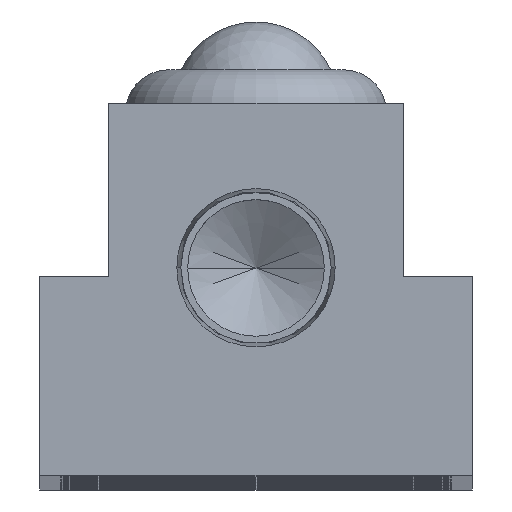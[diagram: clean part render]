
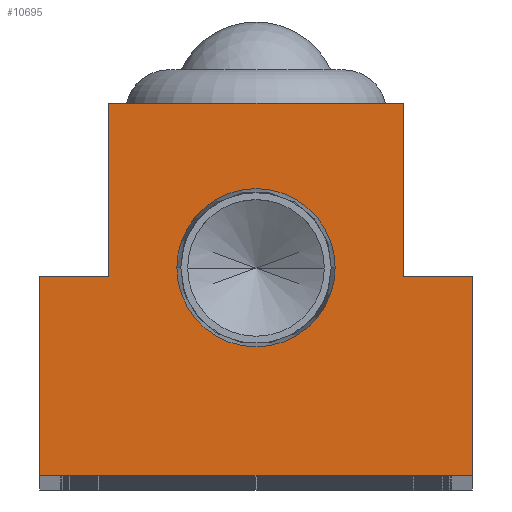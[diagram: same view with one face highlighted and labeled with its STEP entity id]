
A CAD part, top view. The second image highlights one B-rep face of the part: STEP entity #10695.
In plain terms, the highlighted planar face has unit normal (0, 0, 1).
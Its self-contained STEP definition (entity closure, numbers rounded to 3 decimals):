
#187 = CIRCLE ( 'NONE', #5587, 4.574 ) ;
#263 = VERTEX_POINT ( 'NONE', #8770 ) ;
#372 = ORIENTED_EDGE ( 'NONE', *, *, #374, .T. ) ;
#374 = EDGE_CURVE ( 'NONE', #7357, #5736, #13766, .T. ) ;
#389 = VECTOR ( 'NONE', #10794, 1000. ) ;
#401 = VERTEX_POINT ( 'NONE', #8346 ) ;
#406 = DIRECTION ( 'NONE',  ( 0., 0., 1. ) ) ;
#428 = ORIENTED_EDGE ( 'NONE', *, *, #9453, .T. ) ;
#974 = CARTESIAN_POINT ( 'NONE',  ( -8.5, 21.5, 0. ) ) ;
#985 = VERTEX_POINT ( 'NONE', #16141 ) ;
#997 = PLANE ( 'NONE',  #6294 ) ;
#1120 = LINE ( 'NONE', #1768, #13688 ) ;
#1618 = VECTOR ( 'NONE', #10406, 1000. ) ;
#1760 = EDGE_CURVE ( 'NONE', #3448, #15977, #2004, .T. ) ;
#1768 = CARTESIAN_POINT ( 'NONE',  ( -8.5, 21.5, 0. ) ) ;
#2004 = LINE ( 'NONE', #9155, #1618 ) ;
#2152 = LINE ( 'NONE', #14390, #8477 ) ;
#3025 = EDGE_CURVE ( 'NONE', #985, #7357, #3537, .T. ) ;
#3071 = VECTOR ( 'NONE', #10485, 1000. ) ;
#3136 = VECTOR ( 'NONE', #5357, 1000. ) ;
#3230 = VERTEX_POINT ( 'NONE', #8288 ) ;
#3448 = VERTEX_POINT ( 'NONE', #12734 ) ;
#3507 = EDGE_CURVE ( 'NONE', #3230, #401, #187, .T. ) ;
#3537 = LINE ( 'NONE', #12849, #3136 ) ;
#3596 = VERTEX_POINT ( 'NONE', #9353 ) ;
#3607 = CARTESIAN_POINT ( 'NONE',  ( 0., 12., 0. ) ) ;
#4026 = EDGE_CURVE ( 'NONE', #15977, #985, #9806, .T. ) ;
#4728 = CARTESIAN_POINT ( 'NONE',  ( 12.5, 11.5, 0. ) ) ;
#4783 = ORIENTED_EDGE ( 'NONE', *, *, #3507, .F. ) ;
#4884 = DIRECTION ( 'NONE',  ( 1., 0., 0. ) ) ;
#5341 = VERTEX_POINT ( 'NONE', #6767 ) ;
#5357 = DIRECTION ( 'NONE',  ( 0., 1., 0. ) ) ;
#5587 = AXIS2_PLACEMENT_3D ( 'NONE', #7940, #406, #9190 ) ;
#5716 = CARTESIAN_POINT ( 'NONE',  ( -8.5, 11.5, 0. ) ) ;
#5736 = VERTEX_POINT ( 'NONE', #974 ) ;
#6034 = LINE ( 'NONE', #12932, #3071 ) ;
#6129 = EDGE_CURVE ( 'NONE', #5736, #3596, #1120, .T. ) ;
#6294 = AXIS2_PLACEMENT_3D ( 'NONE', #9719, #13920, #6382 ) ;
#6382 = DIRECTION ( 'NONE',  ( 1., 0., 0. ) ) ;
#6767 = CARTESIAN_POINT ( 'NONE',  ( -12.5, 0., 0. ) ) ;
#6895 = CARTESIAN_POINT ( 'NONE',  ( 12.5, 11.5, 0. ) ) ;
#6990 = DIRECTION ( 'NONE',  ( -1., 0., 0. ) ) ;
#7252 = DIRECTION ( 'NONE',  ( -1., 0., 0. ) ) ;
#7357 = VERTEX_POINT ( 'NONE', #7467 ) ;
#7467 = CARTESIAN_POINT ( 'NONE',  ( 8.5, 21.5, 0. ) ) ;
#7940 = CARTESIAN_POINT ( 'NONE',  ( 0., 12., 0. ) ) ;
#8288 = CARTESIAN_POINT ( 'NONE',  ( 4.574, 12., 0. ) ) ;
#8346 = CARTESIAN_POINT ( 'NONE',  ( -4.574, 12., 0. ) ) ;
#8352 = EDGE_LOOP ( 'NONE', ( #4783, #16162 ) ) ;
#8443 = AXIS2_PLACEMENT_3D ( 'NONE', #3607, #12393, #4884 ) ;
#8477 = VECTOR ( 'NONE', #10601, 1000. ) ;
#8622 = LINE ( 'NONE', #5716, #14891 ) ;
#8770 = CARTESIAN_POINT ( 'NONE',  ( -12.5, 11.5, 0. ) ) ;
#8859 = ORIENTED_EDGE ( 'NONE', *, *, #4026, .T. ) ;
#9155 = CARTESIAN_POINT ( 'NONE',  ( 12.5, 0., 0. ) ) ;
#9190 = DIRECTION ( 'NONE',  ( 1., 0., 0. ) ) ;
#9353 = CARTESIAN_POINT ( 'NONE',  ( -8.5, 11.5, 0. ) ) ;
#9453 = EDGE_CURVE ( 'NONE', #263, #5341, #2152, .T. ) ;
#9538 = CARTESIAN_POINT ( 'NONE',  ( 8.5, 21.5, 0. ) ) ;
#9689 = ORIENTED_EDGE ( 'NONE', *, *, #6129, .T. ) ;
#9719 = CARTESIAN_POINT ( 'NONE',  ( 0., 0., 0. ) ) ;
#9806 = LINE ( 'NONE', #4728, #16066 ) ;
#9818 = ORIENTED_EDGE ( 'NONE', *, *, #13897, .T. ) ;
#10052 = EDGE_LOOP ( 'NONE', ( #11629, #8859, #16196, #372, #9689, #9818, #428, #14073 ) ) ;
#10406 = DIRECTION ( 'NONE',  ( 0., 1., 0. ) ) ;
#10485 = DIRECTION ( 'NONE',  ( 1., 0., 0. ) ) ;
#10601 = DIRECTION ( 'NONE',  ( 0., -1., 0. ) ) ;
#10695 = ADVANCED_FACE ( 'NONE', ( #14723, #11366 ), #997, .T. ) ;
#10794 = DIRECTION ( 'NONE',  ( -1., 0., 0. ) ) ;
#11028 = CIRCLE ( 'NONE', #8443, 4.574 ) ;
#11366 = FACE_OUTER_BOUND ( 'NONE', #10052, .T. ) ;
#11629 = ORIENTED_EDGE ( 'NONE', *, *, #1760, .T. ) ;
#11701 = EDGE_CURVE ( 'NONE', #401, #3230, #11028, .T. ) ;
#12393 = DIRECTION ( 'NONE',  ( 0., 0., 1. ) ) ;
#12734 = CARTESIAN_POINT ( 'NONE',  ( 12.5, 0., 0. ) ) ;
#12849 = CARTESIAN_POINT ( 'NONE',  ( 8.5, 11.5, 0. ) ) ;
#12932 = CARTESIAN_POINT ( 'NONE',  ( -12.5, 0., 0. ) ) ;
#13047 = DIRECTION ( 'NONE',  ( 0., -1., 0. ) ) ;
#13688 = VECTOR ( 'NONE', #13047, 1000. ) ;
#13766 = LINE ( 'NONE', #9538, #389 ) ;
#13897 = EDGE_CURVE ( 'NONE', #3596, #263, #8622, .T. ) ;
#13920 = DIRECTION ( 'NONE',  ( 0., 0., 1. ) ) ;
#14073 = ORIENTED_EDGE ( 'NONE', *, *, #14347, .T. ) ;
#14347 = EDGE_CURVE ( 'NONE', #5341, #3448, #6034, .T. ) ;
#14390 = CARTESIAN_POINT ( 'NONE',  ( -12.5, 11.5, 0. ) ) ;
#14723 = FACE_BOUND ( 'NONE', #8352, .T. ) ;
#14891 = VECTOR ( 'NONE', #6990, 1000. ) ;
#15977 = VERTEX_POINT ( 'NONE', #6895 ) ;
#16066 = VECTOR ( 'NONE', #7252, 1000. ) ;
#16141 = CARTESIAN_POINT ( 'NONE',  ( 8.5, 11.5, 0. ) ) ;
#16162 = ORIENTED_EDGE ( 'NONE', *, *, #11701, .F. ) ;
#16196 = ORIENTED_EDGE ( 'NONE', *, *, #3025, .T. ) ;
